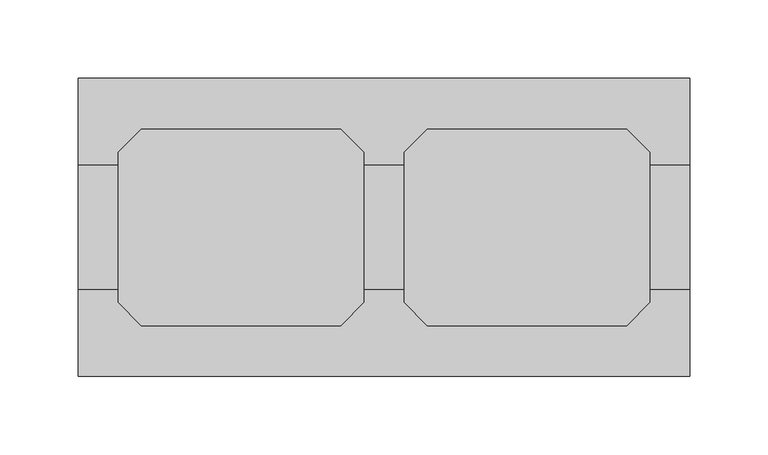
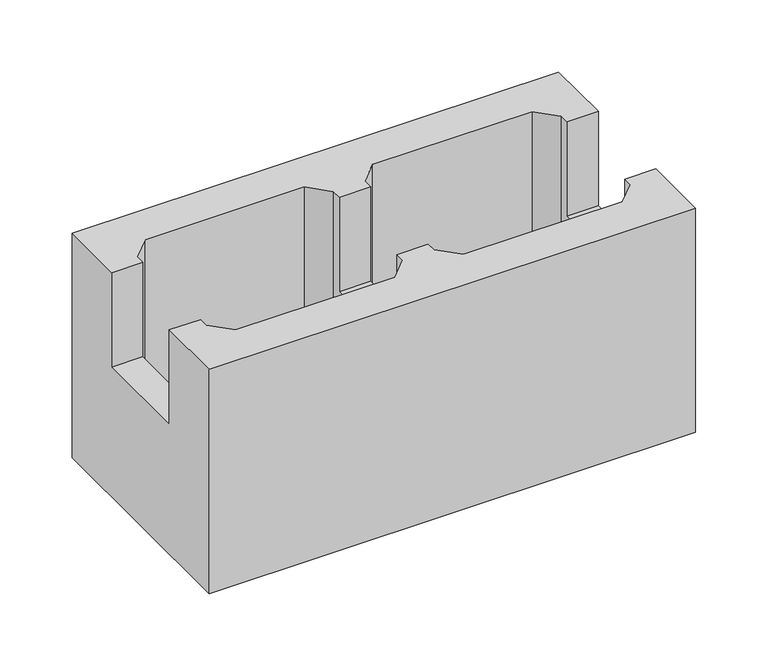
"""IFC4 building model written with IfcOpenShell, lengths in millimetres: proxy geometry, Bloco de Concreto - Canaleta Inteira : Família 20 x 40 - Classe A."""

from ifc_helpers import new_model, si_unit, origin, place, context, project, spatial, faceted_brep, source, transform, mapped, element, save


def generic_models_ad9f4817(model_context):
    return source(origin(), model_context, "Body", "Brep", [
        faceted_brep([(195.0, -95.0, 190.0), (195.0, -40.0, 190.0), (170.0, -40.0, 190.0), (170.0, -48.0, 190.0), (155.0, -63.0, 190.0), (27.5, -63.0, 190.0), (12.5, -48.0, 190.0), (12.5, -40.0, 190.0), (-12.5, -40.0, 190.0), (-12.5, -48.0, 190.0), (-27.5, -63.0, 190.0), (-155.0, -63.0, 190.0), (-170.0, -48.0, 190.0), (-170.0, -40.0, 190.0), (-195.0, -40.0, 190.0), (-195.0, -95.0, 190.0), (-195.0, 95.0, 190.0), (-195.0, 40.0, 190.0), (-170.0, 40.0, 190.0), (-170.0, 48.0, 190.0), (-155.0, 63.0, 190.0), (-27.5, 63.0, 190.0), (-12.5, 48.0, 190.0), (-12.5, 40.0, 190.0), (12.5, 40.0, 190.0), (12.5, 48.0, 190.0), (27.5, 63.0, 190.0), (155.0, 63.0, 190.0), (170.0, 48.0, 190.0), (170.0, 40.0, 190.0), (195.0, 40.0, 190.0), (195.0, 95.0, 190.0), (-195.0, -95.0, 0.0), (195.0, -95.0, 0.0), (-195.0, -40.0, 110.0), (-195.0, 40.0, 110.0), (-195.0, 95.0, 0.0), (195.0, 95.0, 0.0), (195.0, 40.0, 110.0), (195.0, -40.0, 110.0), (-12.5, -40.0, 110.0), (-12.5, 40.0, 110.0), (-12.5, 48.0, 3.0), (-12.5, -48.0, 3.0), (-155.0, 63.0, 3.0), (-27.5, 63.0, 3.0), (-170.0, 40.0, 110.0), (-170.0, -40.0, 110.0), (-170.0, -48.0, 3.0), (-170.0, 48.0, 3.0), (-27.5, -63.0, 3.0), (-155.0, -63.0, 3.0), (170.0, -40.0, 110.0), (170.0, 40.0, 110.0), (170.0, 48.0, 3.0), (170.0, -48.0, 3.0), (27.5, 63.0, 3.0), (155.0, 63.0, 3.0), (12.5, 40.0, 110.0), (12.5, -40.0, 110.0), (12.5, -48.0, 3.0), (12.5, 48.0, 3.0), (155.0, -63.0, 3.0), (27.5, -63.0, 3.0)], [[[0, 1, 2, 3, 4, 5, 6, 7, 8, 9, 10, 11, 12, 13, 14, 15]], [[16, 17, 18, 19, 20, 21, 22, 23, 24, 25, 26, 27, 28, 29, 30, 31]], [[15, 32, 33, 0]], [[32, 15, 14, 34, 35, 17, 16, 36]], [[31, 37, 36, 16]], [[37, 31, 30, 38, 39, 1, 0, 33]], [[9, 8, 40, 41, 23, 22, 42, 43]], [[20, 44, 45, 21]], [[19, 18, 46, 47, 13, 12, 48, 49]], [[10, 50, 51, 11]], [[3, 2, 52, 53, 29, 28, 54, 55]], [[26, 56, 57, 27]], [[25, 24, 58, 59, 7, 6, 60, 61]], [[4, 62, 63, 5]], [[9, 43, 50, 10]], [[21, 45, 42, 22]], [[19, 49, 44, 20]], [[11, 51, 48, 12]], [[3, 55, 62, 4]], [[27, 57, 54, 28]], [[25, 61, 56, 26]], [[5, 63, 60, 6]], [[42, 45, 44, 49, 48, 51, 50, 43]], [[54, 57, 56, 61, 60, 63, 62, 55]], [[33, 32, 36, 37]], [[35, 34, 47, 46]], [[41, 40, 59, 58]], [[53, 52, 39, 38]], [[34, 14, 13, 47]], [[40, 8, 7, 59]], [[52, 2, 1, 39]], [[38, 30, 29, 53]], [[46, 18, 17, 35]], [[58, 24, 23, 41]]]),
    ])


if __name__ == "__main__":
    model = new_model("IFC4")
    model_context = context("Model", 3, world=origin())
    ifc_project = project(units=[si_unit("LENGTHUNIT", "METRE", prefix="MILLI")], contexts=[model_context])
    site = spatial("IfcSite", under=ifc_project)
    building = spatial("IfcBuilding", under=site)
    placement = place(None, origin())
    generic_models_shape = generic_models_ad9f4817(model_context)
    element("IfcBuildingElementProxy", 1, Name="Bloco de Concreto - Canaleta Inteira : Família 20 x 40 - Classe A", ObjectType="Bloco de Concreto - Canaleta Inteira : Família 20 x 40 - Classe A", at=placement, inside=building, context=model_context, shape_type="MappedRepresentation", body=[
        mapped(generic_models_shape, transform((0.0, 0.0, 0.0), x_axis=(1.0, 0.0, 0.0), y_axis=(0.0, 1.0, 0.0), z_axis=(0.0, 0.0, 1.0))),
    ])
    save(model, "model.ifc")
